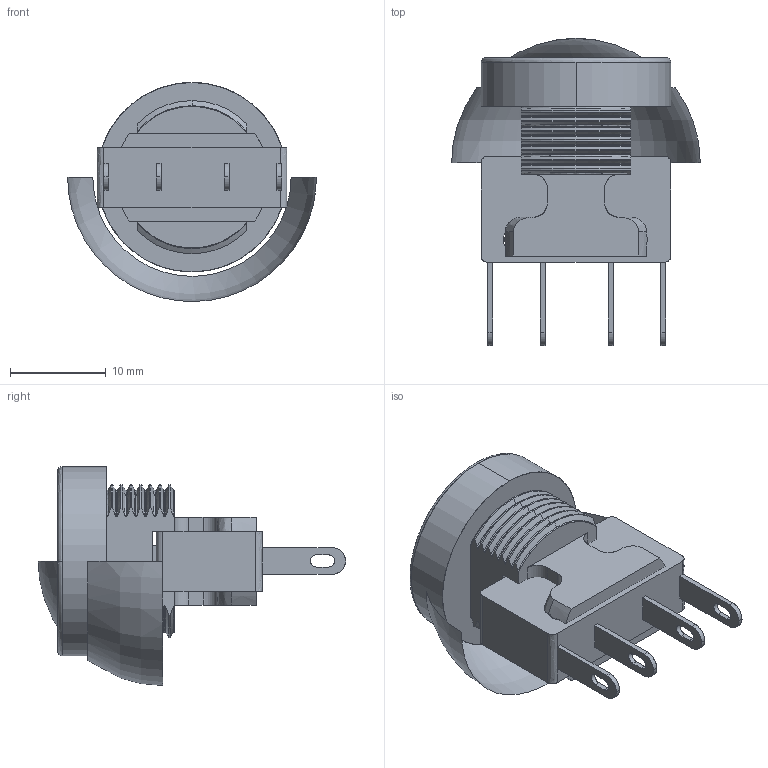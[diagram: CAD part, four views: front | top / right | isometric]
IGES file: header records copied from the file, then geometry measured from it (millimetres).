
Start section: SolidWorks IGES file using analytic representation for surfaces
Global section: file name: X:\Archive - Switch\Switches Series (Top Levels)\series 49-59\Step & Iges Files\49-5912X.IGS; native system: SolidWorks 2015; preprocessor: SolidWorks 2015; author: Alan_B; date: 150702.144356; units: millimetre
Bounding box: 26 x 32.1 x 22.9 mm (x, y, z)
Surface area: 3669.8 mm2 (no closed solid volume)
Topology: 0 solids, 0 shells, 233 faces, 2404 edges, 2341 vertices
Faces by surface type: revolution 132, bspline 101
